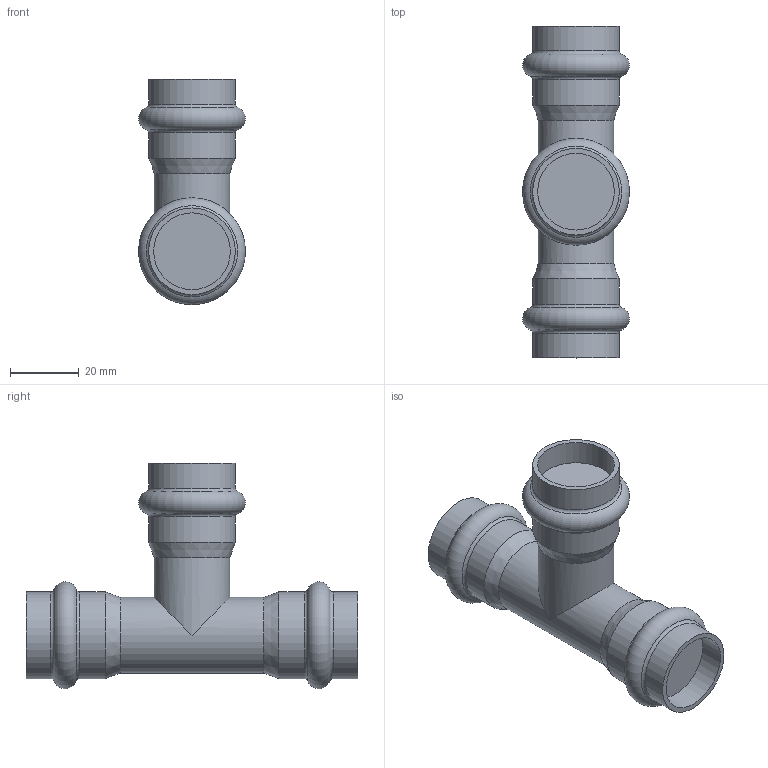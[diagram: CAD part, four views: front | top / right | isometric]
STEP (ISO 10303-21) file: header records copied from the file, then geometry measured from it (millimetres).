
FILE_DESCRIPTION(('STEP AP203'), '1');
FILE_NAME('VTi.931.I.222222', '', ('UNSPECIFIED'), ('UNSPECIFIED'), 'C3D Converter', 'C3D Toolkit', '');
FILE_SCHEMA(('CONFIG_CONTROL_DESIGN'));
Length unit declared in the file: millimetre
Bounding box: 31.09 x 96.5 x 65.55 mm (x, y, z)
Volume: 56647.9 mm3; surface area: 13951.7 mm2
Topology: 1 solids, 1 shells, 29 faces, 55 edges, 31 vertices
Faces by surface type: cylinder 11, torus 9, plane 6, cone 3
Full cylindrical faces by diameter (mm): 22 x2, 22.3 x3, 25.2 x6
Entity records: 640 total; most frequent: DIRECTION 114, CARTESIAN_POINT 104, ORIENTED_EDGE 62, AXIS2_PLACEMENT_3D 57, EDGE_LOOP 56, FACE_OUTER_BOUND 45, EDGE_CURVE 31, VERTEX_POINT 31
